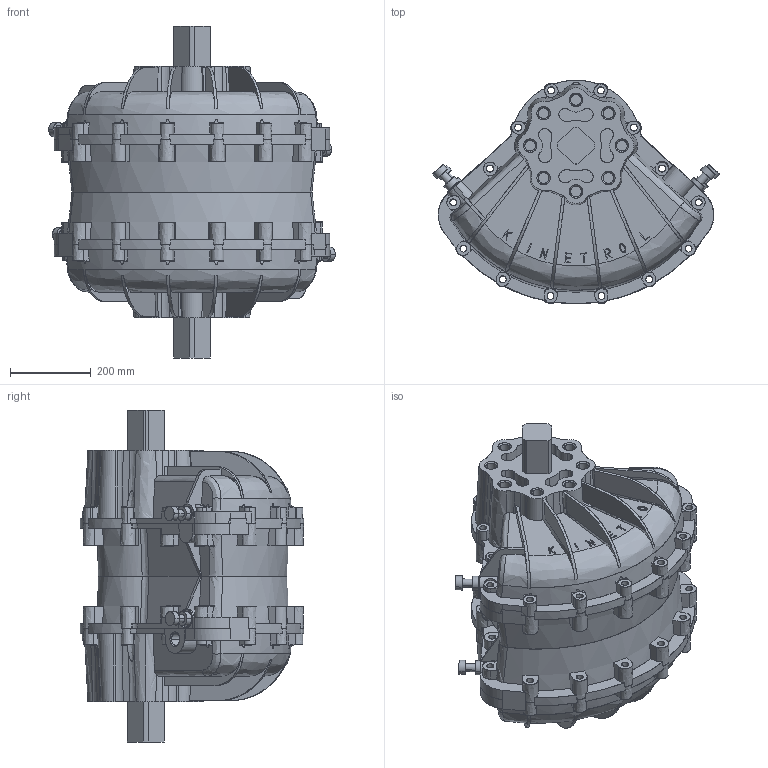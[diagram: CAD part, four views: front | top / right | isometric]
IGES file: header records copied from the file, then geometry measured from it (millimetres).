
Start section: Comment
Global section: file name: 200-100.igs; native system:  By Spatial Corp.; preprocessor: XPlus GENERIC/IGES 3.0; author: Author; organization: Title; date: 20050420.092506; units: inch
Bounding box: 708.52 x 551.95 x 820.25 mm (x, y, z)
Surface area: 2269179.3 mm2 (no closed solid volume)
Topology: 0 solids, 0 shells, 1386 faces, 7807 edges, 7807 vertices
Faces by surface type: bspline 1386
